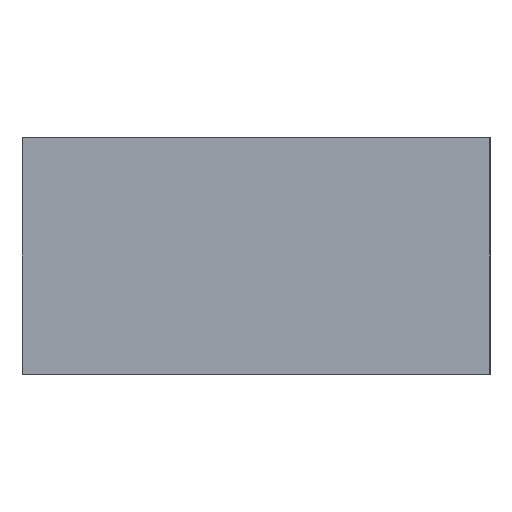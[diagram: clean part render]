
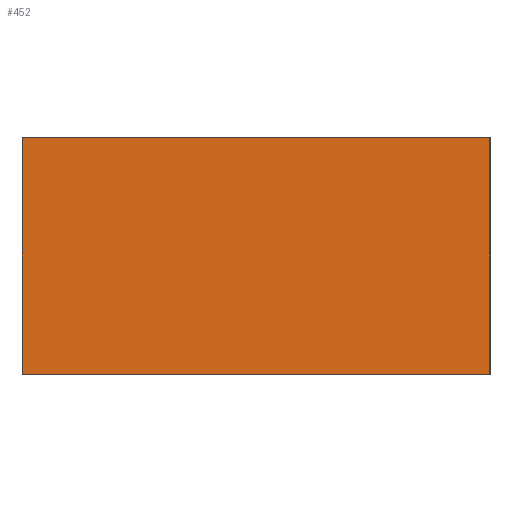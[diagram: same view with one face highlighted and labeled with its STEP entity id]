
A CAD part, left-side view. The second image highlights one B-rep face of the part: STEP entity #452.
In plain terms, the highlighted planar face has unit normal (-1, 0, 0).
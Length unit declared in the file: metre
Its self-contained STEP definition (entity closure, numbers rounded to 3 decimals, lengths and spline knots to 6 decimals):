
#57=ORIENTED_EDGE('',*,*,#143,.T.);
#58=ORIENTED_EDGE('',*,*,#162,.T.);
#59=ORIENTED_EDGE('',*,*,#152,.F.);
#60=ORIENTED_EDGE('',*,*,#160,.F.);
#143=EDGE_CURVE('',#201,#202,#243,.T.);
#152=EDGE_CURVE('',#210,#211,#247,.T.);
#160=EDGE_CURVE('',#201,#210,#251,.T.);
#162=EDGE_CURVE('',#202,#211,#253,.T.);
#201=VERTEX_POINT('',#649);
#202=VERTEX_POINT('',#650);
#210=VERTEX_POINT('',#668);
#211=VERTEX_POINT('',#669);
#243=LINE('',#648,#291);
#247=LINE('',#667,#295);
#251=LINE('',#686,#299);
#253=LINE('',#689,#301);
#291=VECTOR('',#526,1.);
#295=VECTOR('',#542,1.);
#299=VECTOR('',#560,1.);
#301=VECTOR('',#564,1.);
#354=EDGE_LOOP('',(#57,#58,#59,#60));
#396=FACE_BOUND('',#354,.T.);
#428=PLANE('',#501);
#452=ADVANCED_FACE('',(#396),#428,.F.);
#501=AXIS2_PLACEMENT_3D('',#692,#568,#569);
#526=DIRECTION('',(0.,0.,-1.));
#542=DIRECTION('',(0.,0.,-1.));
#560=DIRECTION('',(0.,-1.,0.));
#564=DIRECTION('',(0.,-1.,0.));
#568=DIRECTION('',(1.,0.,0.));
#569=DIRECTION('',(0.,1.,0.));
#648=CARTESIAN_POINT('',(-0.03,0.02303,0.));
#649=CARTESIAN_POINT('',(-0.03,0.02303,0.007578));
#650=CARTESIAN_POINT('',(-0.03,0.02303,-0.007578));
#667=CARTESIAN_POINT('',(-0.03,-0.00697,0.));
#668=CARTESIAN_POINT('',(-0.03,-0.00697,0.007578));
#669=CARTESIAN_POINT('',(-0.03,-0.00697,-0.007578));
#686=CARTESIAN_POINT('',(-0.03,0.00803,0.007578));
#689=CARTESIAN_POINT('',(-0.03,0.00803,-0.007578));
#692=CARTESIAN_POINT('',(-0.03,0.00803,-0.001505));
